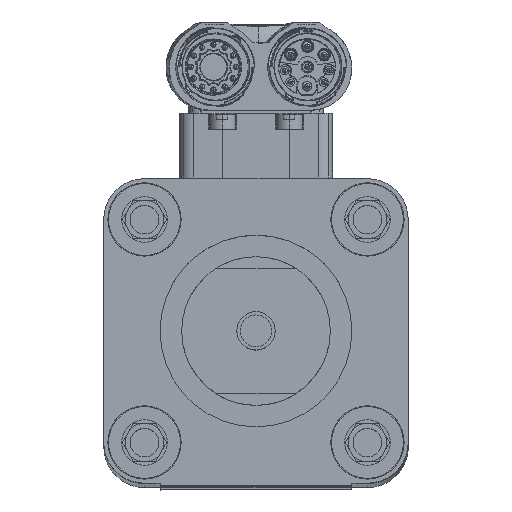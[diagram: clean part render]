
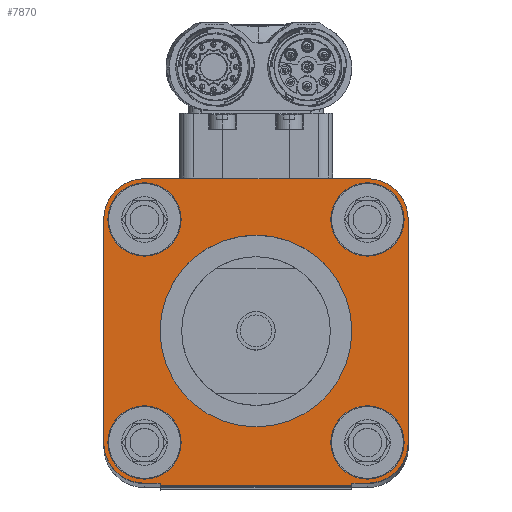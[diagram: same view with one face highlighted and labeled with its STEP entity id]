
A CAD part, left-side view. The second image highlights one B-rep face of the part: STEP entity #7870.
In plain terms, the highlighted planar face has unit normal (-1, 0, 0.002) as drawn and (0, 0, 1) by its records, which use the part's own axes.
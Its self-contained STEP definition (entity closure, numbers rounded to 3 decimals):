
#7870=ADVANCED_FACE('10:20',(#16053,#16054,#16055,#16056,#16057,#16058),#16059,.T.);
#16053=FACE_BOUND('',#33043,.T.);
#16054=FACE_BOUND('',#33044,.T.);
#16055=FACE_BOUND('',#33045,.T.);
#16056=FACE_BOUND('',#33046,.T.);
#16057=FACE_BOUND('',#33047,.T.);
#16058=FACE_OUTER_BOUND('',#33048,.T.);
#16059=PLANE('',#33049);
#33043=EDGE_LOOP('',(#60527,#60528));
#33044=EDGE_LOOP('',(#60529,#60530));
#33045=EDGE_LOOP('',(#60531,#60532));
#33046=EDGE_LOOP('',(#60533,#60534));
#33047=EDGE_LOOP('',(#60535,#60536));
#33048=EDGE_LOOP('',(#60537,#60538,#60539,#60540,#60541,#60542,#60543,#60544,#60545,#60546,#60547,#60548,#60549,#60550,#60551,#60552));
#33049=AXIS2_PLACEMENT_3D('',#60553,#60554,#60555);
#60527=ORIENTED_EDGE('',*,*,#77456,.F.);
#60528=ORIENTED_EDGE('',*,*,#77457,.F.);
#60529=ORIENTED_EDGE('',*,*,#77458,.F.);
#60530=ORIENTED_EDGE('',*,*,#77459,.F.);
#60531=ORIENTED_EDGE('',*,*,#73234,.F.);
#60532=ORIENTED_EDGE('',*,*,#73111,.F.);
#60533=ORIENTED_EDGE('',*,*,#71996,.F.);
#60534=ORIENTED_EDGE('',*,*,#72819,.F.);
#60535=ORIENTED_EDGE('',*,*,#74273,.F.);
#60536=ORIENTED_EDGE('',*,*,#73257,.F.);
#60537=ORIENTED_EDGE('',*,*,#77460,.F.);
#60538=ORIENTED_EDGE('',*,*,#73896,.F.);
#60539=ORIENTED_EDGE('',*,*,#77461,.F.);
#60540=ORIENTED_EDGE('',*,*,#77462,.F.);
#60541=ORIENTED_EDGE('',*,*,#74671,.F.);
#60542=ORIENTED_EDGE('',*,*,#74752,.F.);
#60543=ORIENTED_EDGE('',*,*,#77463,.F.);
#60544=ORIENTED_EDGE('',*,*,#77464,.F.);
#60545=ORIENTED_EDGE('',*,*,#77465,.F.);
#60546=ORIENTED_EDGE('',*,*,#77113,.F.);
#60547=ORIENTED_EDGE('',*,*,#77466,.F.);
#60548=ORIENTED_EDGE('',*,*,#77467,.F.);
#60549=ORIENTED_EDGE('',*,*,#77468,.F.);
#60550=ORIENTED_EDGE('',*,*,#77469,.F.);
#60551=ORIENTED_EDGE('',*,*,#77470,.F.);
#60552=ORIENTED_EDGE('',*,*,#76805,.F.);
#60553=CARTESIAN_POINT('',(0.0,0.0,34.0));
#60554=DIRECTION('',(0.0,0.0,1.0));
#60555=DIRECTION('',(1.0,0.0,0.0));
#71996=EDGE_CURVE('0:1551',#84887,#84883,#84889,.F.);
#72819=EDGE_CURVE('',#84883,#84887,#86311,.F.);
#73111=EDGE_CURVE('',#86806,#86808,#86809,.F.);
#73234=EDGE_CURVE('0:1603',#86808,#86806,#87025,.F.);
#73257=EDGE_CURVE('',#87062,#87064,#87065,.F.);
#73896=EDGE_CURVE('0:863',#88186,#88182,#88188,.F.);
#74273=EDGE_CURVE('0:1525',#87064,#87062,#88823,.F.);
#74671=EDGE_CURVE('0:854',#89518,#89514,#89520,.F.);
#74752=EDGE_CURVE('',#89650,#89518,#89652,.F.);
#76805=EDGE_CURVE('',#93169,#93171,#93172,.F.);
#77113=EDGE_CURVE('0:1747',#93691,#93689,#93693,.F.);
#77456=EDGE_CURVE('10:253',#94281,#94282,#94283,.T.);
#77457=EDGE_CURVE('',#94282,#94281,#94284,.T.);
#77458=EDGE_CURVE('0:1577',#94285,#94286,#94287,.F.);
#77459=EDGE_CURVE('',#94286,#94285,#94288,.F.);
#77460=EDGE_CURVE('0:1801',#88182,#93169,#94289,.F.);
#77461=EDGE_CURVE('',#94290,#88186,#94291,.F.);
#77462=EDGE_CURVE('0:1695',#89514,#94290,#94292,.F.);
#77463=EDGE_CURVE('0:1637',#94293,#89650,#94294,.F.);
#77464=EDGE_CURVE('0:845',#94295,#94293,#94296,.F.);
#77465=EDGE_CURVE('',#93689,#94295,#94297,.F.);
#77466=EDGE_CURVE('13:44',#94298,#93691,#94299,.F.);
#77467=EDGE_CURVE('13:385',#94300,#94298,#94301,.T.);
#77468=EDGE_CURVE('13:394',#94302,#94300,#94303,.T.);
#77469=EDGE_CURVE('13:400',#94304,#94302,#94305,.T.);
#77470=EDGE_CURVE('13:41',#93171,#94304,#94306,.F.);
#84883=VERTEX_POINT('',#106874);
#84887=VERTEX_POINT('',#106879);
#84889=CIRCLE('',#106882,7.65);
#86311=CIRCLE('',#109741,7.65);
#86806=VERTEX_POINT('',#110618);
#86808=VERTEX_POINT('',#110621);
#86809=CIRCLE('',#110622,7.65);
#87025=CIRCLE('',#111017,7.65);
#87062=VERTEX_POINT('',#111079);
#87064=VERTEX_POINT('',#111082);
#87065=CIRCLE('',#111083,7.65);
#88182=VERTEX_POINT('',#113225);
#88186=VERTEX_POINT('',#113231);
#88188=LINE('',#113234,#113235);
#88823=CIRCLE('',#114311,7.65);
#89514=VERTEX_POINT('',#115693);
#89518=VERTEX_POINT('',#115699);
#89520=LINE('',#115702,#115703);
#89650=VERTEX_POINT('',#115884);
#89652=CIRCLE('',#115887,8.5);
#93169=VERTEX_POINT('',#122422);
#93171=VERTEX_POINT('',#122425);
#93172=CIRCLE('',#122426,8.5);
#93689=VERTEX_POINT('',#123415);
#93691=VERTEX_POINT('',#123418);
#93693=CIRCLE('',#123421,8.5);
#94281=VERTEX_POINT('',#124546);
#94282=VERTEX_POINT('',#124547);
#94283=CIRCLE('',#124548,20.0);
#94284=CIRCLE('',#124549,20.0);
#94285=VERTEX_POINT('',#124550);
#94286=VERTEX_POINT('',#124551);
#94287=CIRCLE('',#124552,7.65);
#94288=CIRCLE('',#124553,7.65);
#94289=CIRCLE('',#124554,8.5);
#94290=VERTEX_POINT('',#124555);
#94291=CIRCLE('',#124556,8.5);
#94292=CIRCLE('',#124557,8.5);
#94293=VERTEX_POINT('',#124558);
#94294=CIRCLE('',#124559,8.5);
#94295=VERTEX_POINT('',#124560);
#94296=LINE('',#124561,#124562);
#94297=CIRCLE('',#124563,8.5);
#94298=VERTEX_POINT('',#124564);
#94299=LINE('',#124565,#124566);
#94300=VERTEX_POINT('',#124567);
#94301=LINE('',#124568,#124569);
#94302=VERTEX_POINT('',#124570);
#94303=LINE('',#124571,#124572);
#94304=VERTEX_POINT('',#124573);
#94305=LINE('',#124574,#124575);
#94306=LINE('',#124576,#124577);
#106874=CARTESIAN_POINT('',(46.709,9.864,34.0));
#106879=CARTESIAN_POINT('',(31.409,9.864,34.0));
#106882=AXIS2_PLACEMENT_3D('',#148700,#148701,#148702);
#109741=AXIS2_PLACEMENT_3D('',#149565,#149566,#149567);
#110618=CARTESIAN_POINT('',(0.209,-36.636,34.0));
#110621=CARTESIAN_POINT('',(-15.091,-36.636,34.0));
#110622=AXIS2_PLACEMENT_3D('',#149875,#149876,#149877);
#111017=AXIS2_PLACEMENT_3D('',#150032,#150033,#150034);
#111079=CARTESIAN_POINT('',(0.209,9.864,34.0));
#111082=CARTESIAN_POINT('',(-15.091,9.864,34.0));
#111083=AXIS2_PLACEMENT_3D('',#150057,#150058,#150059);
#113225=CARTESIAN_POINT('',(47.559,-36.636,34.0));
#113231=CARTESIAN_POINT('',(47.559,9.864,34.0));
#113234=CARTESIAN_POINT('',(47.559,-6.693,34.0));
#113235=VECTOR('',#150747,1.0);
#114311=AXIS2_PLACEMENT_3D('',#151162,#151163,#151164);
#115693=CARTESIAN_POINT('',(39.059,18.364,34.0));
#115699=CARTESIAN_POINT('',(-7.441,18.364,34.0));
#115702=CARTESIAN_POINT('',(7.904,18.364,34.0));
#115703=VECTOR('',#151605,1.0);
#115884=CARTESIAN_POINT('',(-13.451,15.874,34.0));
#115887=AXIS2_PLACEMENT_3D('',#151701,#151702,#151703);
#122422=CARTESIAN_POINT('',(45.069,-42.647,34.0));
#122425=CARTESIAN_POINT('',(39.059,-45.136,34.0));
#122426=AXIS2_PLACEMENT_3D('',#154186,#154187,#154188);
#123415=CARTESIAN_POINT('',(-13.451,-42.647,34.0));
#123418=CARTESIAN_POINT('',(-7.441,-45.136,34.0));
#123421=AXIS2_PLACEMENT_3D('',#154529,#154530,#154531);
#124546=CARTESIAN_POINT('',(-4.191,-13.386,34.0));
#124547=CARTESIAN_POINT('',(35.809,-13.386,34.0));
#124548=AXIS2_PLACEMENT_3D('',#154910,#154911,#154912);
#124549=AXIS2_PLACEMENT_3D('',#154913,#154914,#154915);
#124550=CARTESIAN_POINT('',(31.409,-36.636,34.0));
#124551=CARTESIAN_POINT('',(46.709,-36.636,34.0));
#124552=AXIS2_PLACEMENT_3D('',#154916,#154917,#154918);
#124553=AXIS2_PLACEMENT_3D('',#154919,#154920,#154921);
#124554=AXIS2_PLACEMENT_3D('',#154922,#154923,#154924);
#124555=CARTESIAN_POINT('',(45.069,15.874,34.0));
#124556=AXIS2_PLACEMENT_3D('',#154925,#154926,#154927);
#124557=AXIS2_PLACEMENT_3D('',#154928,#154929,#154930);
#124558=CARTESIAN_POINT('',(-15.941,9.864,34.0));
#124559=AXIS2_PLACEMENT_3D('',#154931,#154932,#154933);
#124560=CARTESIAN_POINT('',(-15.941,-36.636,34.0));
#124561=CARTESIAN_POINT('',(-15.941,-6.693,34.0));
#124562=VECTOR('',#154934,1.0);
#124563=AXIS2_PLACEMENT_3D('',#154935,#154936,#154937);
#124564=CARTESIAN_POINT('',(-4.191,-45.136,34.0));
#124565=CARTESIAN_POINT('',(7.904,-45.136,34.0));
#124566=VECTOR('',#154938,1.0);
#124567=CARTESIAN_POINT('',(-4.191,-45.636,34.0));
#124568=CARTESIAN_POINT('',(-4.191,-45.636,34.0));
#124569=VECTOR('',#154939,1.0);
#124570=CARTESIAN_POINT('',(35.809,-45.636,34.0));
#124571=CARTESIAN_POINT('',(35.809,-45.636,34.0));
#124572=VECTOR('',#154940,1.0);
#124573=CARTESIAN_POINT('',(35.809,-45.136,34.0));
#124574=CARTESIAN_POINT('',(35.809,-45.136,34.0));
#124575=VECTOR('',#154941,1.0);
#124576=CARTESIAN_POINT('',(7.904,-45.136,34.0));
#124577=VECTOR('',#154942,1.0);
#148700=CARTESIAN_POINT('',(39.059,9.864,34.0));
#148701=DIRECTION('',(0.0,0.0,-1.0));
#148702=DIRECTION('',(1.0,0.0,0.0));
#149565=CARTESIAN_POINT('',(39.059,9.864,34.0));
#149566=DIRECTION('',(0.0,0.0,-1.0));
#149567=DIRECTION('',(1.0,0.0,0.0));
#149875=CARTESIAN_POINT('',(-7.441,-36.636,34.0));
#149876=DIRECTION('',(0.0,0.0,-1.0));
#149877=DIRECTION('',(1.0,0.0,0.0));
#150032=CARTESIAN_POINT('',(-7.441,-36.636,34.0));
#150033=DIRECTION('',(0.0,0.0,-1.0));
#150034=DIRECTION('',(1.0,0.0,0.0));
#150057=CARTESIAN_POINT('',(-7.441,9.864,34.0));
#150058=DIRECTION('',(0.0,0.0,-1.0));
#150059=DIRECTION('',(1.0,0.0,0.0));
#150747=DIRECTION('',(-0.0,1.0,0.0));
#151162=CARTESIAN_POINT('',(-7.441,9.864,34.0));
#151163=DIRECTION('',(0.0,0.0,-1.0));
#151164=DIRECTION('',(1.0,0.0,0.0));
#151605=DIRECTION('',(-1.0,0.0,0.0));
#151701=CARTESIAN_POINT('',(-7.441,9.864,34.0));
#151702=DIRECTION('',(0.0,0.0,1.0));
#151703=DIRECTION('',(-0.707,0.707,0.0));
#154186=CARTESIAN_POINT('',(39.059,-36.636,34.0));
#154187=DIRECTION('',(0.0,0.0,1.0));
#154188=DIRECTION('',(0.707,-0.707,0.0));
#154529=CARTESIAN_POINT('',(-7.441,-36.636,34.0));
#154530=DIRECTION('',(0.0,0.0,1.0));
#154531=DIRECTION('',(-0.707,-0.707,0.0));
#154910=CARTESIAN_POINT('',(15.809,-13.386,34.0));
#154911=DIRECTION('',(0.0,0.0,1.0));
#154912=DIRECTION('',(1.0,0.0,-0.0));
#154913=CARTESIAN_POINT('',(15.809,-13.386,34.0));
#154914=DIRECTION('',(0.0,0.0,1.0));
#154915=DIRECTION('',(1.0,0.0,-0.0));
#154916=CARTESIAN_POINT('',(39.059,-36.636,34.0));
#154917=DIRECTION('',(0.0,0.0,-1.0));
#154918=DIRECTION('',(1.0,0.0,0.0));
#154919=CARTESIAN_POINT('',(39.059,-36.636,34.0));
#154920=DIRECTION('',(0.0,0.0,-1.0));
#154921=DIRECTION('',(1.0,0.0,0.0));
#154922=CARTESIAN_POINT('',(39.059,-36.636,34.0));
#154923=DIRECTION('',(0.0,0.0,1.0));
#154924=DIRECTION('',(0.707,-0.707,0.0));
#154925=CARTESIAN_POINT('',(39.059,9.864,34.0));
#154926=DIRECTION('',(0.0,-0.0,1.0));
#154927=DIRECTION('',(0.707,0.707,0.0));
#154928=CARTESIAN_POINT('',(39.059,9.864,34.0));
#154929=DIRECTION('',(0.0,-0.0,1.0));
#154930=DIRECTION('',(0.707,0.707,0.0));
#154931=CARTESIAN_POINT('',(-7.441,9.864,34.0));
#154932=DIRECTION('',(0.0,0.0,1.0));
#154933=DIRECTION('',(-0.707,0.707,0.0));
#154934=DIRECTION('',(0.0,-1.0,0.0));
#154935=CARTESIAN_POINT('',(-7.441,-36.636,34.0));
#154936=DIRECTION('',(0.0,0.0,1.0));
#154937=DIRECTION('',(-0.707,-0.707,0.0));
#154938=DIRECTION('',(1.0,0.0,-0.0));
#154939=DIRECTION('',(0.0,1.0,0.0));
#154940=DIRECTION('',(-1.0,0.0,0.0));
#154941=DIRECTION('',(0.0,-1.0,0.0));
#154942=DIRECTION('',(1.0,0.0,-0.0));
